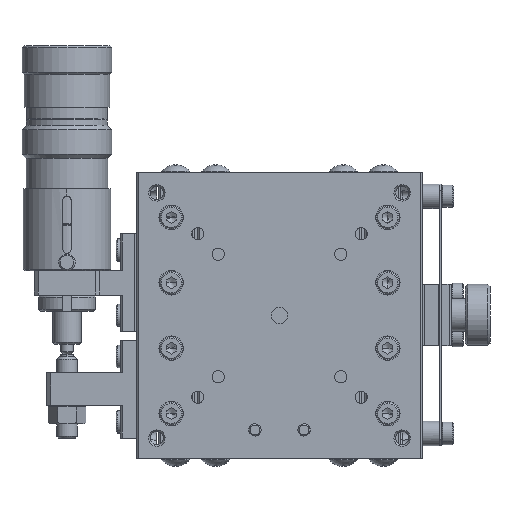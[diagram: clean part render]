
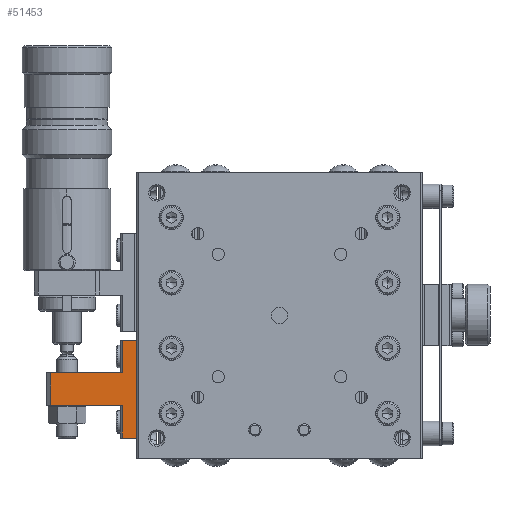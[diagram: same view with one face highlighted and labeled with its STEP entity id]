
A CAD part, top view. The second image highlights one B-rep face of the part: STEP entity #51453.
In plain terms, the highlighted planar face has unit normal (0, 0, 1).
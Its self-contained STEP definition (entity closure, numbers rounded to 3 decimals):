
#36480 = DIRECTION ( 'NONE',  ( -1., 0., 0. ) ) ;
#36481 = VECTOR ( 'NONE', #36480, 1000. ) ;
#36482 = CARTESIAN_POINT ( 'NONE',  ( -35., -6., 12.5 ) ) ;
#36483 = LINE ( 'NONE', #36482, #36481 ) ;
#36485 = CARTESIAN_POINT ( 'NONE',  ( -38.5, -6., 12.5 ) ) ;
#36545 = DIRECTION ( 'NONE',  ( -1., 0., 0. ) ) ;
#36546 = VECTOR ( 'NONE', #36545, 1000. ) ;
#36547 = CARTESIAN_POINT ( 'NONE',  ( -35., -30., 12.5 ) ) ;
#36548 = LINE ( 'NONE', #36547, #36546 ) ;
#36593 = CARTESIAN_POINT ( 'NONE',  ( -38.5, -30., 12.5 ) ) ;
#36625 = DIRECTION ( 'NONE',  ( 0., -1., 0. ) ) ;
#36626 = VECTOR ( 'NONE', #36625, 1000. ) ;
#36627 = CARTESIAN_POINT ( 'NONE',  ( -38.5, -6., 12.5 ) ) ;
#36628 = LINE ( 'NONE', #36627, #36626 ) ;
#36630 = CARTESIAN_POINT ( 'NONE',  ( -38.5, -14., 12.5 ) ) ;
#36656 = CARTESIAN_POINT ( 'NONE',  ( -38.5, -22., 12.5 ) ) ;
#36657 = DIRECTION ( 'NONE',  ( 0., -1., 0. ) ) ;
#36658 = VECTOR ( 'NONE', #36657, 1000. ) ;
#36659 = CARTESIAN_POINT ( 'NONE',  ( -38.5, -22., 12.5 ) ) ;
#36660 = LINE ( 'NONE', #36659, #36658 ) ;
#36693 = CARTESIAN_POINT ( 'NONE',  ( -56., -14., 12.5 ) ) ;
#36694 = DIRECTION ( 'NONE',  ( 0., -1., 0. ) ) ;
#36695 = VECTOR ( 'NONE', #36694, 1000. ) ;
#36696 = CARTESIAN_POINT ( 'NONE',  ( -56., -14., 12.5 ) ) ;
#36697 = LINE ( 'NONE', #36696, #36695 ) ;
#36698 = CARTESIAN_POINT ( 'NONE',  ( -56., -22., 12.5 ) ) ;
#36718 = DIRECTION ( 'NONE',  ( -1., 0., 0. ) ) ;
#36719 = VECTOR ( 'NONE', #36718, 1000. ) ;
#36720 = CARTESIAN_POINT ( 'NONE',  ( -35., -14., 12.5 ) ) ;
#36721 = LINE ( 'NONE', #36720, #36719 ) ;
#36838 = DIRECTION ( 'NONE',  ( -1., 0., 0. ) ) ;
#36839 = VECTOR ( 'NONE', #36838, 1000. ) ;
#36840 = CARTESIAN_POINT ( 'NONE',  ( -35., -22., 12.5 ) ) ;
#36841 = DIRECTION ( 'NONE',  ( 0., 1., 0. ) ) ;
#36842 = DIRECTION ( 'NONE',  ( 0., 0., 1. ) ) ;
#36843 = CARTESIAN_POINT ( 'NONE',  ( -35., -14., 12.5 ) ) ;
#36844 = LINE ( 'NONE', #36840, #36839 ) ;
#36845 = AXIS2_PLACEMENT_3D ( 'NONE', #36843, #36842, #36841 ) ;
#36846 = FACE_OUTER_BOUND ( 'NONE', #51454, .T. ) ;
#36850 = PLANE ( 'NONE',  #36845 ) ;
#42714 = DIRECTION ( 'NONE',  ( 0., -1., 0. ) ) ;
#42715 = VECTOR ( 'NONE', #42714, 1000. ) ;
#42716 = CARTESIAN_POINT ( 'NONE',  ( -35., -14., 12.5 ) ) ;
#42717 = LINE ( 'NONE', #42716, #42715 ) ;
#42727 = CARTESIAN_POINT ( 'NONE',  ( -35., -6., 12.5 ) ) ;
#42742 = CARTESIAN_POINT ( 'NONE',  ( -35., -30., 12.5 ) ) ;
#51262 = VERTEX_POINT ( 'NONE', #36485 ) ;
#51265 = EDGE_CURVE ( 'NONE', #54704, #51262, #36483, .T. ) ;
#51302 = EDGE_CURVE ( 'NONE', #54695, #51309, #36548, .T. ) ;
#51309 = VERTEX_POINT ( 'NONE', #36593 ) ;
#51325 = VERTEX_POINT ( 'NONE', #36630 ) ;
#51328 = EDGE_CURVE ( 'NONE', #51262, #51325, #36628, .T. ) ;
#51345 = EDGE_CURVE ( 'NONE', #51346, #51309, #36660, .T. ) ;
#51346 = VERTEX_POINT ( 'NONE', #36656 ) ;
#51376 = ORIENTED_EDGE ( 'NONE', *, *, #54677, .F. ) ;
#51377 = ORIENTED_EDGE ( 'NONE', *, *, #51265, .T. ) ;
#51378 = ORIENTED_EDGE ( 'NONE', *, *, #51328, .T. ) ;
#51379 = ORIENTED_EDGE ( 'NONE', *, *, #51380, .T. ) ;
#51380 = EDGE_CURVE ( 'NONE', #51325, #51393, #36721, .T. ) ;
#51390 = VERTEX_POINT ( 'NONE', #36698 ) ;
#51392 = EDGE_CURVE ( 'NONE', #51393, #51390, #36697, .T. ) ;
#51393 = VERTEX_POINT ( 'NONE', #36693 ) ;
#51440 = ORIENTED_EDGE ( 'NONE', *, *, #51392, .T. ) ;
#51453 = ADVANCED_FACE ( 'NONE', ( #36846 ), #36850, .T. ) ;
#51454 = EDGE_LOOP ( 'NONE', ( #51455, #51457, #51458, #51376, #51377, #51378, #51379, #51440 ) ) ;
#51455 = ORIENTED_EDGE ( 'NONE', *, *, #51456, .F. ) ;
#51456 = EDGE_CURVE ( 'NONE', #51346, #51390, #36844, .T. ) ;
#51457 = ORIENTED_EDGE ( 'NONE', *, *, #51345, .T. ) ;
#51458 = ORIENTED_EDGE ( 'NONE', *, *, #51302, .F. ) ;
#54677 = EDGE_CURVE ( 'NONE', #54704, #54695, #42717, .T. ) ;
#54695 = VERTEX_POINT ( 'NONE', #42742 ) ;
#54704 = VERTEX_POINT ( 'NONE', #42727 ) ;
